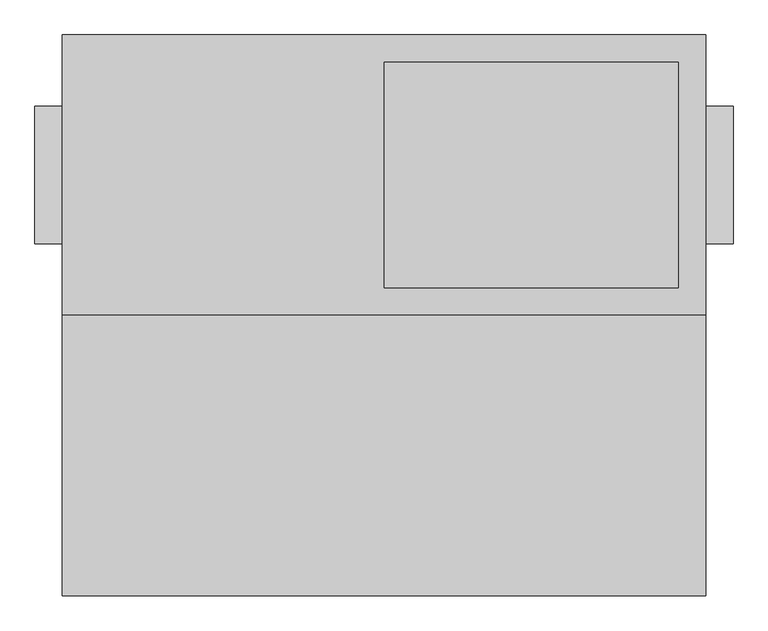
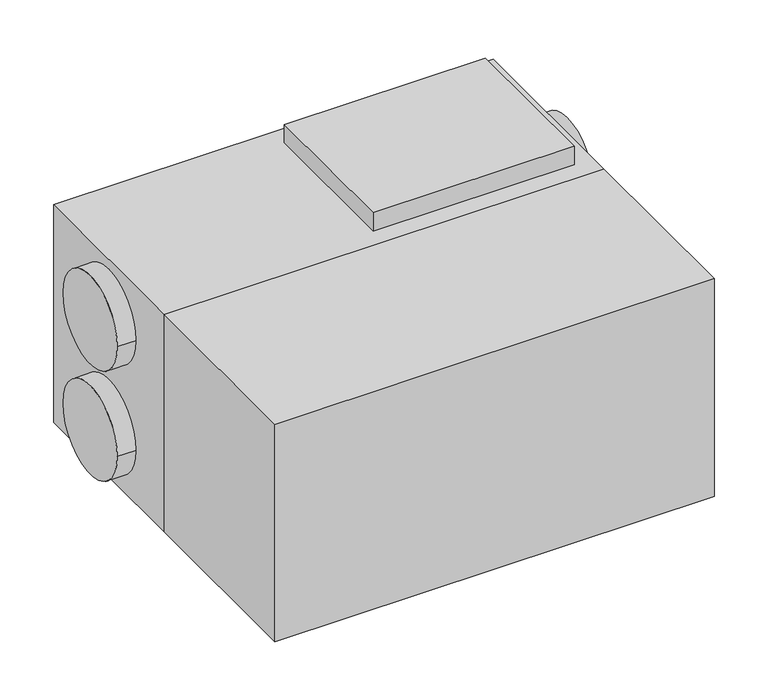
"""IFC4 building model written with IfcOpenShell, lengths in millimetres: proxy geometry, ADSK_КПВУ BRISSAGO HPE_круглая : Brissago HPE 800."""

from ifc_helpers import new_model, si_unit, point, frame, frame_2d, origin, place, context, project, spatial, polyline, circle_curve, trimmed, segment, composite_curve, outline, extrude, faceted_brep, source, transform, mapped, element, save


def mechanical_equipment_9406116b(model_context):
    return source(origin(), model_context, "Body", "SolidModel", [
        extrude(outline(polyline([(851.0, -255.0), (851.0, -765.0), (-319.0, -765.0), (-319.0, -255.0), (851.0, -255.0)])), frame((0.0, 0.0, 31.0), z_axis=(0.0, 0.0, 1.0), x_axis=(1.0, 0.0, 0.0)), (0.0, 0.0, 1.0), 613.0),
        faceted_brep([(851.0, -255.0, 644.0), (851.0, -255.0, 31.0), (851.0, 255.0, 31.0), (851.0, 255.0, 644.0), (-319.0, -255.0, 644.0), (-319.0, 255.0, 644.0), (-319.0, 255.0, 31.0), (-319.0, -255.0, 31.0), (266.0, 205.0, 644.0), (801.0, 205.0, 644.0), (801.0, -205.0, 644.0), (266.0, -205.0, 644.0), (801.0, 205.0, 695.0), (266.0, 205.0, 695.0), (266.0, -205.0, 695.0), (801.0, -205.0, 695.0)], [[[0, 1, 2, 3]], [[4, 5, 6, 7]], [[1, 0, 4, 7]], [[2, 1, 7, 6]], [[3, 2, 6, 5]], [[0, 3, 5, 4], [8, 9, 10, 11]], [[12, 13, 14, 15]], [[13, 12, 9, 8]], [[14, 13, 8, 11]], [[15, 14, 11, 10]], [[12, 15, 10, 9]]]),
        extrude(outline(composite_curve([segment(trimmed(circle_curve(frame_2d((0.0, 492.0)), 125.0), [point((-125.0, 492.0))], [point((125.0, 492.0))], False, "CARTESIAN"), True, "CONTINUOUS"), segment(trimmed(circle_curve(frame_2d((0.0, 492.0)), 125.0), [point((125.0, 492.0))], [point((-125.0, 492.0))], False, "CARTESIAN"), True, "CONTINUOUS")], self_intersect=False)), frame((-369.0, 0.0, 0.0), z_axis=(1.0, 0.0, 0.0), x_axis=(0.0, 1.0, 0.0)), (0.0, 0.0, 1.0), 50.0),
        extrude(outline(composite_curve([segment(trimmed(circle_curve(frame_2d((0.0, 182.0)), 125.0), [point((-125.0, 182.0))], [point((125.0, 182.0))], False, "CARTESIAN"), True, "CONTINUOUS"), segment(trimmed(circle_curve(frame_2d((0.0, 182.0)), 125.0), [point((125.0, 182.0))], [point((-125.0, 182.0))], False, "CARTESIAN"), True, "CONTINUOUS")], self_intersect=False)), frame((-369.0, 0.0, 0.0), z_axis=(1.0, 0.0, 0.0), x_axis=(0.0, 1.0, 0.0)), (0.0, 0.0, 1.0), 50.0),
        extrude(outline(composite_curve([segment(trimmed(circle_curve(frame_2d((0.0, 492.0)), 125.0), [point((-125.0, 492.0))], [point((125.0, 492.0))], False, "CARTESIAN"), True, "CONTINUOUS"), segment(trimmed(circle_curve(frame_2d((0.0, 492.0)), 125.0), [point((125.0, 492.0))], [point((-125.0, 492.0))], False, "CARTESIAN"), True, "CONTINUOUS")], self_intersect=False)), frame((851.0, 0.0, 0.0), z_axis=(1.0, 0.0, 0.0), x_axis=(0.0, 1.0, 0.0)), (0.0, 0.0, 1.0), 50.0),
        extrude(outline(composite_curve([segment(trimmed(circle_curve(frame_2d((0.0, 182.0)), 125.0), [point((-125.0, 182.0))], [point((125.0, 182.0))], False, "CARTESIAN"), True, "CONTINUOUS"), segment(trimmed(circle_curve(frame_2d((0.0, 182.0)), 125.0), [point((125.0, 182.0))], [point((-125.0, 182.0))], False, "CARTESIAN"), True, "CONTINUOUS")], self_intersect=False)), frame((851.0, 0.0, 0.0), z_axis=(1.0, 0.0, 0.0), x_axis=(0.0, 1.0, 0.0)), (0.0, 0.0, 1.0), 50.0),
        extrude(outline(polyline([(0.0, -139.0), (31.0, -139.0), (31.0, -149.0), (10.0, -149.0), (10.0, -189.0), (31.0, -189.0), (31.0, -199.0), (0.0, -199.0), (0.0, -139.0)])), frame((0.0, -255.0, 0.0), z_axis=(0.0, 1.0, 0.0), x_axis=(0.0, 0.0, 1.0)), (0.0, 0.0, 1.0), 510.0),
        extrude(outline(polyline([(0.0, 731.0), (31.0, 731.0), (31.0, 721.0), (10.0, 721.0), (10.0, 681.0), (31.0, 681.0), (31.0, 671.0), (0.0, 671.0), (0.0, 731.0)])), frame((0.0, -255.0, 0.0), z_axis=(0.0, 1.0, 0.0), x_axis=(0.0, 0.0, 1.0)), (0.0, 0.0, 1.0), 510.0),
    ])


if __name__ == "__main__":
    model = new_model("IFC4")
    model_context = context("Model", 3, world=origin())
    ifc_project = project(units=[si_unit("LENGTHUNIT", "METRE", prefix="MILLI")], contexts=[model_context])
    site = spatial("IfcSite", under=ifc_project)
    building = spatial("IfcBuilding", under=site)
    placement = place(None, origin())
    mechanical_equipment_shape = mechanical_equipment_9406116b(model_context)
    element("IfcBuildingElementProxy", 1, Name="ADSK_КПВУ BRISSAGO HPE_круглая : Brissago HPE 800", ObjectType="ADSK_КПВУ BRISSAGO HPE_круглая : Brissago HPE 800", at=placement, inside=building, context=model_context, shape_type="MappedRepresentation", body=[
        mapped(mechanical_equipment_shape, transform((0.0, 0.0, 0.0), x_axis=(1.0, 0.0, 0.0), y_axis=(0.0, 1.0, 0.0), z_axis=(0.0, 0.0, 1.0))),
    ])
    save(model, "model.ifc")
